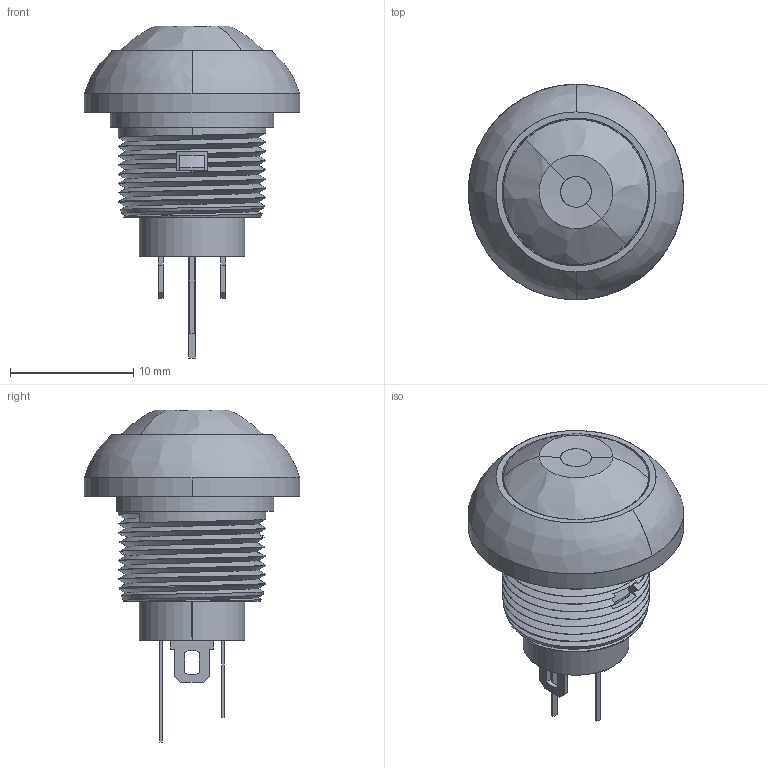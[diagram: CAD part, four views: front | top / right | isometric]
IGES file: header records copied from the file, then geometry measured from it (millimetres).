
Start section: SolidWorks IGES file using analytic representation for surfaces
Global section: file name: C:\Documents and Settings\990702\桌面\PAS6B2M1CESX-5LY2-01.IGS,1; native system: 5HSolidWorks 2007; preprocessor: SolidWorks 2007; author: 990702; date: 110302.160936; units: millimetre
Bounding box: 17.5 x 17.5 x 26.97 mm (x, y, z)
Surface area: 2472.4 mm2 (no closed solid volume)
Topology: 0 solids, 0 shells, 235 faces, 3051 edges, 3051 vertices
Faces by surface type: bspline 159, revolution 76
